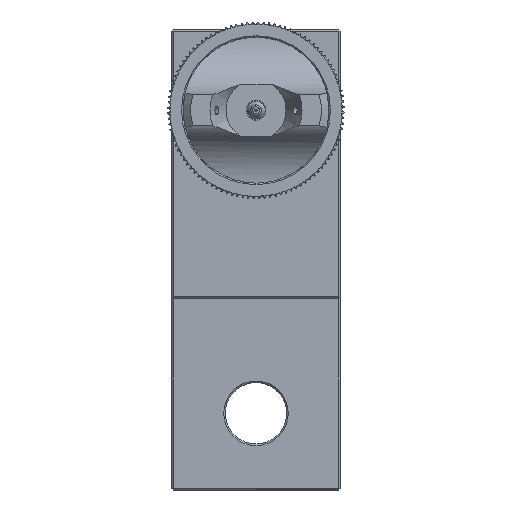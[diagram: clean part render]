
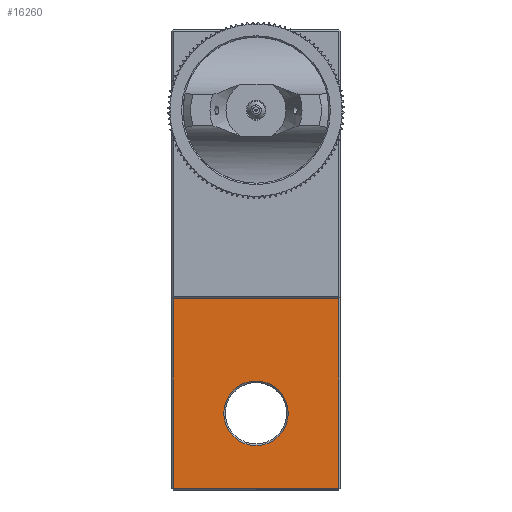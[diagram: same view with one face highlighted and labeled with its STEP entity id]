
A CAD part, front view. The second image highlights one B-rep face of the part: STEP entity #16260.
In plain terms, the highlighted planar face has unit normal (0, -1, 0).
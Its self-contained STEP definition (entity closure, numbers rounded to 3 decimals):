
#251 = ORIENTED_EDGE ( 'NONE', *, *, #8941, .T. ) ;
#1303 = EDGE_CURVE ( 'NONE', #4247, #6059, #11639, .T. ) ;
#1718 = EDGE_LOOP ( 'NONE', ( #21999 ) ) ;
#1940 = LINE ( 'NONE', #20453, #2477 ) ;
#2204 = DIRECTION ( 'NONE',  ( 0., 0., 1. ) ) ;
#2477 = VECTOR ( 'NONE', #3666, 1000. ) ;
#2516 = VECTOR ( 'NONE', #2625, 1000. ) ;
#2582 = ORIENTED_EDGE ( 'NONE', *, *, #1303, .T. ) ;
#2625 = DIRECTION ( 'NONE',  ( 0., 0., 1. ) ) ;
#2806 = CARTESIAN_POINT ( 'NONE',  ( -10.8, 72., 77.804 ) ) ;
#3403 = VERTEX_POINT ( 'NONE', #21871 ) ;
#3666 = DIRECTION ( 'NONE',  ( 1., 0., 0. ) ) ;
#4002 = EDGE_CURVE ( 'NONE', #5881, #6059, #15741, .T. ) ;
#4051 = CARTESIAN_POINT ( 'NONE',  ( 0., 72., 58.404 ) ) ;
#4247 = VERTEX_POINT ( 'NONE', #18428 ) ;
#5024 = CARTESIAN_POINT ( 'NONE',  ( -11., 72., 52.604 ) ) ;
#5881 = VERTEX_POINT ( 'NONE', #15450 ) ;
#6059 = VERTEX_POINT ( 'NONE', #2806 ) ;
#6536 = CARTESIAN_POINT ( 'NONE',  ( -10.8, 72., 52.604 ) ) ;
#8615 = AXIS2_PLACEMENT_3D ( 'NONE', #5024, #14227, #23672 ) ;
#8941 = EDGE_CURVE ( 'NONE', #3403, #4247, #23796, .T. ) ;
#9919 = DIRECTION ( 'NONE',  ( -1., 0., 0. ) ) ;
#10520 = CIRCLE ( 'NONE', #22668, 4.2 ) ;
#10726 = EDGE_CURVE ( 'NONE', #5881, #3403, #1940, .T. ) ;
#11639 = LINE ( 'NONE', #23161, #22871 ) ;
#14007 = CARTESIAN_POINT ( 'NONE',  ( 0., 72., 62.604 ) ) ;
#14070 = EDGE_CURVE ( 'NONE', #21096, #21096, #10520, .T. ) ;
#14227 = DIRECTION ( 'NONE',  ( 0., -1., 0. ) ) ;
#14473 = FACE_BOUND ( 'NONE', #1718, .T. ) ;
#14941 = VECTOR ( 'NONE', #2204, 1000. ) ;
#15450 = CARTESIAN_POINT ( 'NONE',  ( -10.8, 72., 52.804 ) ) ;
#15741 = LINE ( 'NONE', #6536, #2516 ) ;
#15974 = DIRECTION ( 'NONE',  ( 0., 0., -1. ) ) ;
#16260 = ADVANCED_FACE ( 'NONE', ( #18144, #14473 ), #21943, .T. ) ;
#18144 = FACE_OUTER_BOUND ( 'NONE', #22884, .T. ) ;
#18262 = ORIENTED_EDGE ( 'NONE', *, *, #4002, .F. ) ;
#18428 = CARTESIAN_POINT ( 'NONE',  ( 10.8, 72., 77.804 ) ) ;
#19175 = ORIENTED_EDGE ( 'NONE', *, *, #10726, .T. ) ;
#20453 = CARTESIAN_POINT ( 'NONE',  ( -11., 72., 52.804 ) ) ;
#21096 = VERTEX_POINT ( 'NONE', #4051 ) ;
#21481 = DIRECTION ( 'NONE',  ( 0., 1., 0. ) ) ;
#21871 = CARTESIAN_POINT ( 'NONE',  ( 10.8, 72., 52.804 ) ) ;
#21943 = PLANE ( 'NONE',  #8615 ) ;
#21999 = ORIENTED_EDGE ( 'NONE', *, *, #14070, .T. ) ;
#22306 = CARTESIAN_POINT ( 'NONE',  ( 10.8, 72., 52.604 ) ) ;
#22668 = AXIS2_PLACEMENT_3D ( 'NONE', #14007, #21481, #15974 ) ;
#22871 = VECTOR ( 'NONE', #9919, 1000. ) ;
#22884 = EDGE_LOOP ( 'NONE', ( #18262, #19175, #251, #2582 ) ) ;
#23161 = CARTESIAN_POINT ( 'NONE',  ( -11., 72., 77.804 ) ) ;
#23672 = DIRECTION ( 'NONE',  ( 0., 0., -1. ) ) ;
#23796 = LINE ( 'NONE', #22306, #14941 ) ;
